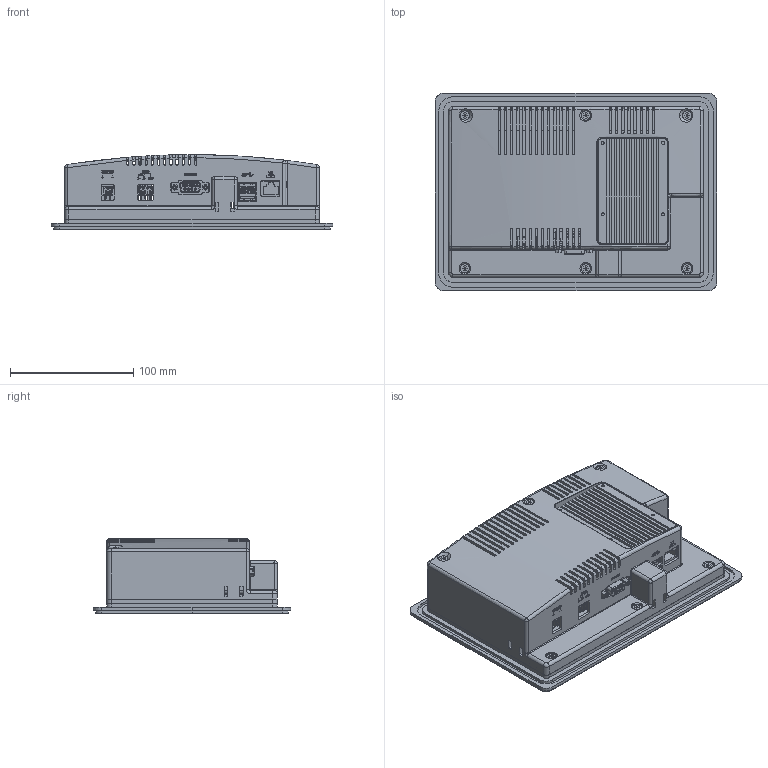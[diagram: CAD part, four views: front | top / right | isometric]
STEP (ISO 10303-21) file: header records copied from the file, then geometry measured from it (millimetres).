
FILE_DESCRIPTION (( 'STEP AP214' ), '1' );
FILE_NAME ('ЛВФБ.421457.001_АСП-7_3D_Rev1.2.STEP', '2024-11-05T06:18:49', ( '' ), ( '' ), 'SwSTEP 2.0', 'SolidWorks 2022', '' );
FILE_SCHEMA (( 'AUTOMOTIVE_DESIGN' ));
Length unit declared in the file: millimetre
Products named in the file (9): MSController_v3.0_00; Countersunk Head Cross-Recessed Self Tapping Screw DIN 7982_3.9mmX13mm; MS Controller v2_00; ЛВФБ.421457.001_АСП-7_3D_Rev1.2; 7 Body Front_For Molding in Silicone; Display 7 inch f16-2_00; 7 Body Back_For Molding in Silicone; heatsink-1225-al-1_00; MSController with Rock Pi 4_00
Assembly tree (13 placements, depth 3):
  ЛВФБ.421457.001_АСП-7_3D_Rev1.2
    MS Controller v2_00
      MSController with Rock Pi 4_00
      MSController_v3.0_00
      heatsink-1225-al-1_00
    Display 7 inch f16-2_00
    7 Body Back_For Molding in Silicone
    7 Body Front_For Molding in Silicone
    Countersunk Head Cross-Recessed Self Tapping Screw DIN 7982_3.9mmX13mm  x6
Bounding box: 228.5 x 160.3 x 60.6 mm (x, y, z)
Volume: 352982.7 mm3; surface area: 306846.6 mm2
Topology: 24 solids, 30 shells, 6254 faces, 17564 edges, 11277 vertices
Faces by surface type: plane 3497, cylinder 1361, bspline 1073, sphere 148, torus 103, cone 72
Entity records: 252061 total; most frequent: CARTESIAN_POINT 81165, ORIENTED_EDGE 32806, DIRECTION 25307, EDGE_CURVE 16451, VERTEX_POINT 10660, VECTOR 10147, LINE 10147, AXIS2_PLACEMENT_3D 7580
